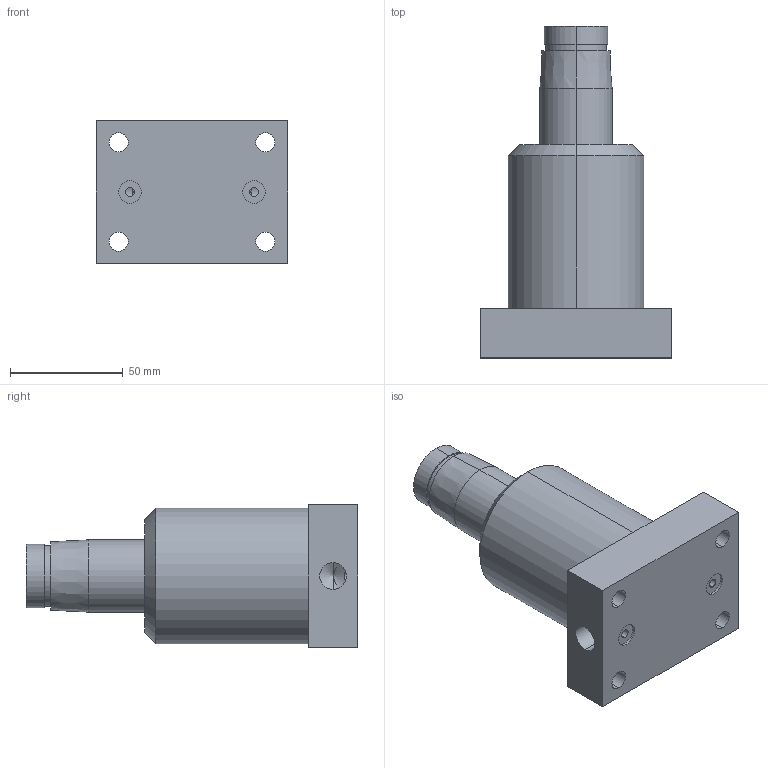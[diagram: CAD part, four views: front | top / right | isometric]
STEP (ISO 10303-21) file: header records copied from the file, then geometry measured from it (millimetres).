
FILE_DESCRIPTION (( 'STEP AP214' ), '1' );
FILE_NAME ('#HPS-40DB.STEP', '2021-10-18T01:55:26', ( '' ), ( '' ), 'SwSTEP 2.0', 'SolidWorks 2016', '' );
FILE_SCHEMA (( 'AUTOMOTIVE_DESIGN' ));
Length unit declared in the file: millimetre
Products named in the file (1): #HPS-40DB
Bounding box: 85 x 147 x 63 mm (x, y, z)
Volume: 350889 mm3; surface area: 38647.3 mm2
Topology: 1 solids, 1 shells, 50 faces, 124 edges, 78 vertices
Faces by surface type: cylinder 28, plane 14, cone 8
Entity records: 1698 total; most frequent: CARTESIAN_POINT 349, DIRECTION 270, ORIENTED_EDGE 240, EDGE_CURVE 120, AXIS2_PLACEMENT_3D 111, VERTEX_POINT 78, EDGE_LOOP 68, CIRCLE 60
